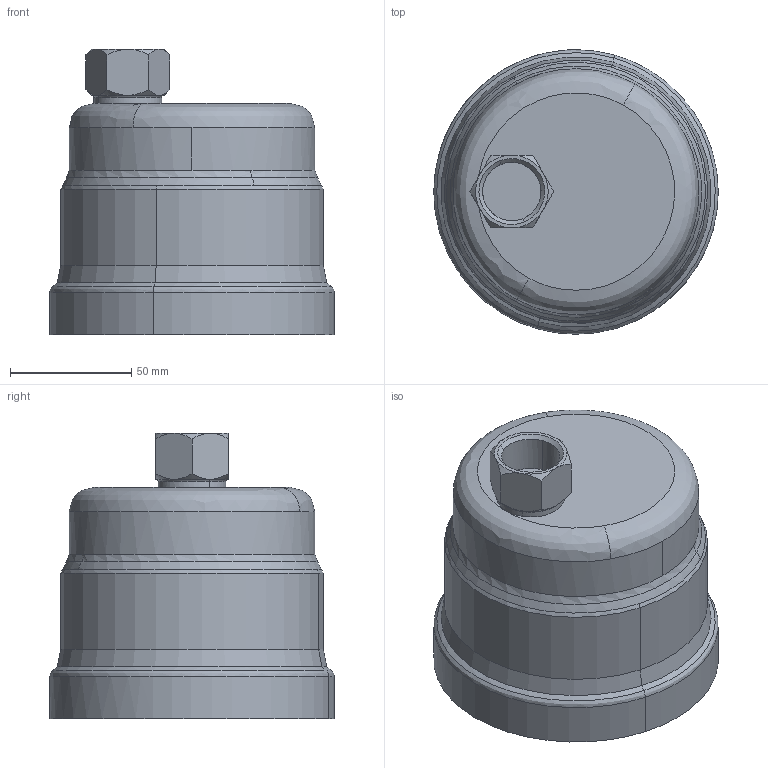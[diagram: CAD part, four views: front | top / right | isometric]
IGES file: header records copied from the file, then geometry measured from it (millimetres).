
Start section: 3D InterOp IGES (Version 25 0 1), Spatial Corp. Copyright (c) 1999-2007.
Global section: file name: pim0004614.igs; native system: Spatial Corp.; preprocessor: 3D InterOp ACIS/IGES; author: Cad-Pim; organization: TransMagic, Inc.; date: 20150430.135647; units: millimetre
Bounding box: 117.5 x 117.5 x 117.9 mm (x, y, z)
Volume: 398593.9 mm3; surface area: 73348.8 mm2
Topology: 1 solids, 1 shells, 59 faces, 162 edges, 102 vertices
Faces by surface type: bspline 35, cylinder 14, cone 10
